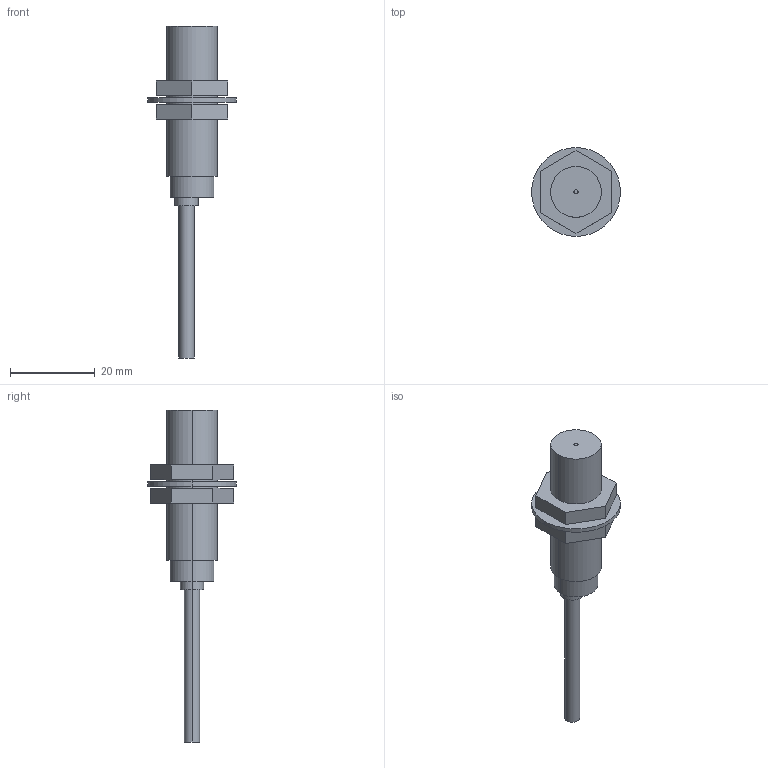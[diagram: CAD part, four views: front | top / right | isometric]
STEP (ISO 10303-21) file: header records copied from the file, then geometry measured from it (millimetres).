
FILE_DESCRIPTION (( 'STEP AP203' ), '1' );
FILE_NAME ('GX-12MU.STEP', '2005-11-09T07:30:06', ( '' ), ( '' ), 'SwSTEP 2.0', 'SolidWorks 2004073', '' );
FILE_SCHEMA (( 'CONFIG_CONTROL_DESIGN' ));
Length unit declared in the file: millimetre
Products named in the file (1): GX-12MU
Bounding box: 21 x 21 x 78.5 mm (x, y, z)
Volume: 6047 mm3; surface area: 3965.3 mm2
Topology: 4 solids, 4 shells, 45 faces, 96 edges, 64 vertices
Faces by surface type: plane 25, cylinder 20
Entity records: 1313 total; most frequent: DIRECTION 228, CARTESIAN_POINT 206, ORIENTED_EDGE 192, EDGE_CURVE 96, AXIS2_PLACEMENT_3D 86, VERTEX_POINT 64, EDGE_LOOP 56, VECTOR 56
